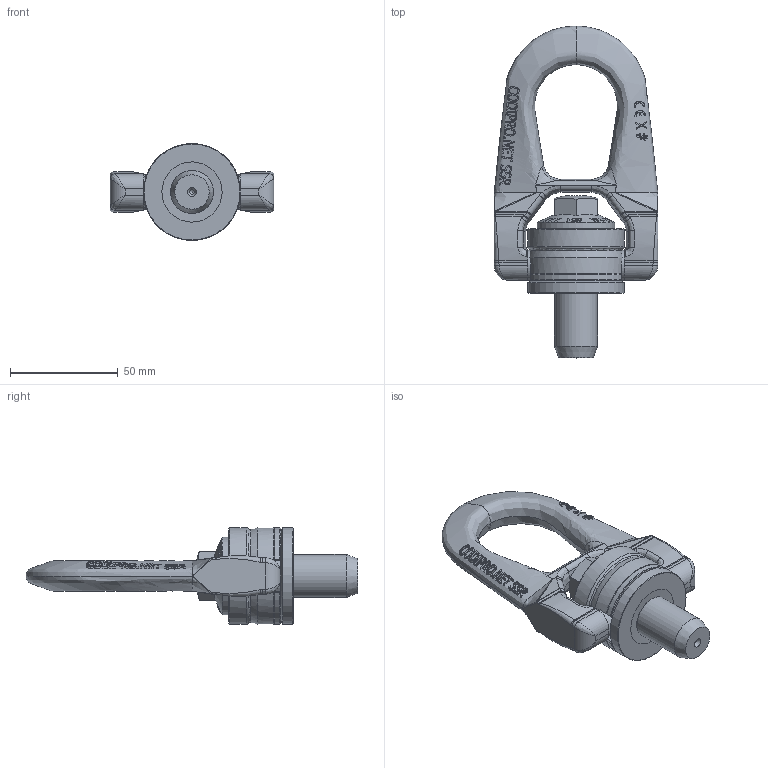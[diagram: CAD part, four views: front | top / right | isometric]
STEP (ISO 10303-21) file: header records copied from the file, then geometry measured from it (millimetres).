
FILE_DESCRIPTION(/* description */ (''),/* implementation_level */ '2;1');
FILE_NAME(/* name */ 'W:\CODIPRO\DOCUMENTS\Plans A NE PAS DIFFUSER !!!\Fichiers STEP\Gamme 2018\Produits NON GRADUP\SS DSR\SS DSR M20.stp',/* time_stamp */ '2017-09-26T13:09:27+02:00',/* author */ ('rklenes'),/* organization */ (''),/* preprocessor_version */ 'ST-DEVELOPER v16.5',/* originating_system */ 'Autodesk Inventor 2017',/* authorisation */ '');
FILE_SCHEMA (('AUTOMOTIVE_DESIGN { 1 0 10303 214 3 1 1 }'));
Products named in the file (5): SS DSR M20; DRM_AF2B-1; DRB_B2B; DRA_M20X60; DRE_D2M20A
Assembly tree (4 placements, depth 2):
  SS DSR M20
    DRM_AF2B-1
    DRB_B2B
    DRA_M20X60
    DRE_D2M20A
Bounding box: 76 x 154.25 x 45 mm (x, y, z)
Volume: 116607.9 mm3; surface area: 37416.4 mm2
Topology: 4 solids, 4 shells, 809 faces, 2110 edges, 1343 vertices
Faces by surface type: plane 358, bspline 310, cylinder 81, cone 48, torus 11, sphere 1
Full cylindrical faces by diameter (mm): 2 x1, 14 x2, 19.85 x2, 19.854 x1, 20 x1, 22.6 x2, 23 x2, 32 x1, 36 x1, 45 x2
Entity records: 44195 total; most frequent: CARTESIAN_POINT 26667, ORIENTED_EDGE 4096, DIRECTION 2800, EDGE_CURVE 2048, VERTEX_POINT 1331, AXIS2_PLACEMENT_3D 1043, EDGE_LOOP 895, FACE_OUTER_BOUND 807
